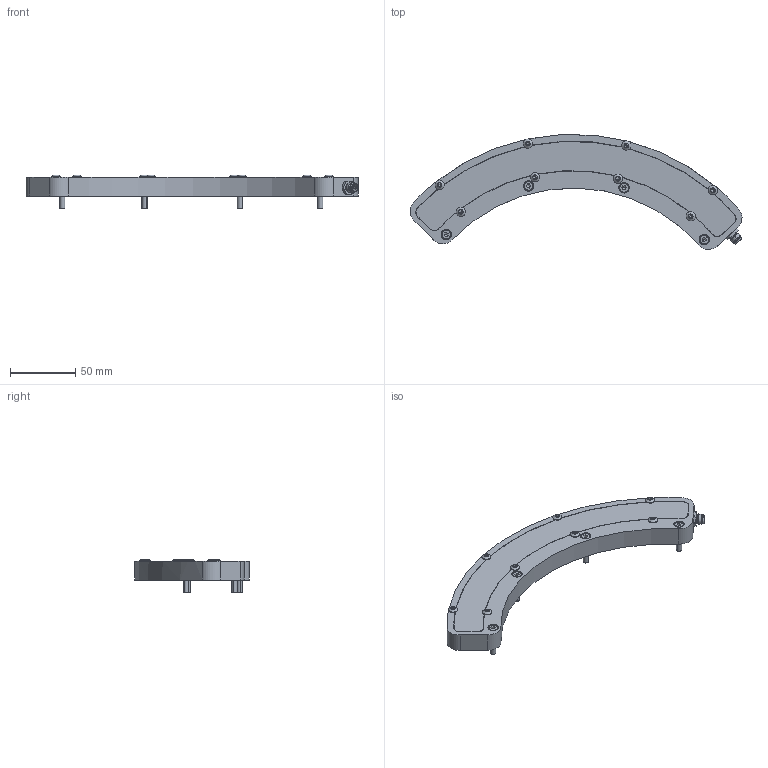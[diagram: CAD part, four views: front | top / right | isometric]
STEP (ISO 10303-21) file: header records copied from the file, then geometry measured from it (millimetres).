
FILE_DESCRIPTION (( 'STEP AP214' ), '1' );
FILE_NAME ('107420_01 (Part) (2016-12-26).STEP', '2016-12-26T20:14:13', ( '' ), ( '' ), 'SwSTEP 2.0', 'SolidWorks 2016', '' );
FILE_SCHEMA (( 'AUTOMOTIVE_DESIGN' ));
Length unit declared in the file: millimetre
Products named in the file (1): 107420_01 (Part) (2016-12-26)
Bounding box: 254.46 x 87.95 x 26.05 mm (x, y, z)
Volume: 110282.4 mm3; surface area: 52683.6 mm2
Topology: 1 solids, 10 shells, 419 faces, 1024 edges, 610 vertices
Faces by surface type: plane 221, cylinder 117, cone 54, torus 16, bspline 11
Entity records: 17146 total; most frequent: CARTESIAN_POINT 2605, DIRECTION 2224, ORIENTED_EDGE 1956, EDGE_CURVE 978, AXIS2_PLACEMENT_3D 853, VERTEX_POINT 610, LINE 518, VECTOR 518
